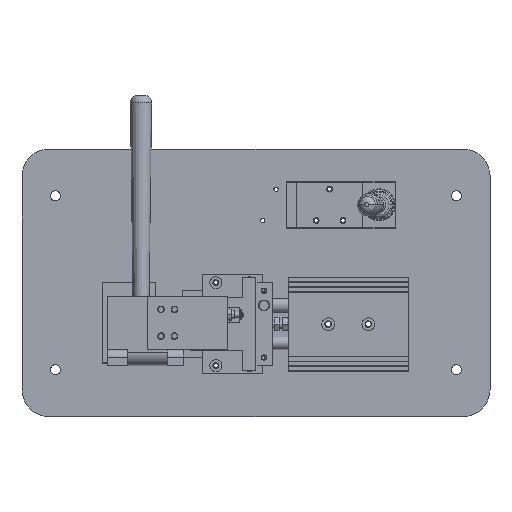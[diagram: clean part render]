
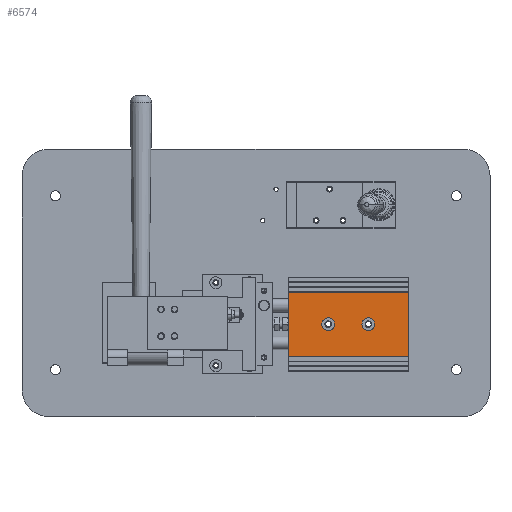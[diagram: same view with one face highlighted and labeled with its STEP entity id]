
A CAD part, top view. The second image highlights one B-rep face of the part: STEP entity #6574.
In plain terms, the highlighted planar face has unit normal (0, 0, 1) as drawn and (0, 1, 0) by its records, which use the part's own axes.
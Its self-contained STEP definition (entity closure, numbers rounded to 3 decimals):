
#5325=CARTESIAN_POINT('Vertex',(0.,25.,23.9)) ;
#5328=CARTESIAN_POINT('Line Origine',(0.,25.,0.)) ;
#5332=CARTESIAN_POINT('Vertex',(0.,25.,-23.9)) ;
#6468=CARTESIAN_POINT('Vertex',(90.,25.,23.9)) ;
#6471=CARTESIAN_POINT('Line Origine',(90.,25.,23.9)) ;
#6483=CARTESIAN_POINT('Axis2P3D Location',(90.,25.,-23.9)) ;
#6488=CARTESIAN_POINT('Line Origine',(90.,25.,0.)) ;
#6492=CARTESIAN_POINT('Vertex',(90.,25.,-23.9)) ;
#6495=CARTESIAN_POINT('Line Origine',(45.,25.,-23.9)) ;
#6506=CARTESIAN_POINT('Axis2P3D Location',(60.,25.,0.)) ;
#6510=CARTESIAN_POINT('Vertex',(64.75,25.,0.)) ;
#6512=CARTESIAN_POINT('Vertex',(60.,25.,4.75)) ;
#6515=CARTESIAN_POINT('Axis2P3D Location',(60.,25.,0.)) ;
#6519=CARTESIAN_POINT('Vertex',(55.25,25.,0.)) ;
#6522=CARTESIAN_POINT('Axis2P3D Location',(60.,25.,0.)) ;
#6526=CARTESIAN_POINT('Vertex',(60.,25.,-4.75)) ;
#6529=CARTESIAN_POINT('Axis2P3D Location',(60.,25.,0.)) ;
#6540=CARTESIAN_POINT('Axis2P3D Location',(30.,25.,0.)) ;
#6544=CARTESIAN_POINT('Vertex',(34.75,25.,0.)) ;
#6546=CARTESIAN_POINT('Vertex',(30.,25.,4.75)) ;
#6549=CARTESIAN_POINT('Axis2P3D Location',(30.,25.,0.)) ;
#6553=CARTESIAN_POINT('Vertex',(25.25,25.,0.)) ;
#6556=CARTESIAN_POINT('Axis2P3D Location',(30.,25.,0.)) ;
#6560=CARTESIAN_POINT('Vertex',(30.,25.,-4.75)) ;
#6563=CARTESIAN_POINT('Axis2P3D Location',(30.,25.,0.)) ;
#5329=DIRECTION('Vector Direction',(0.,0.,1.)) ;
#6472=DIRECTION('Vector Direction',(1.,0.,0.)) ;
#6484=DIRECTION('Axis2P3D Direction',(0.,-1.,0.)) ;
#6485=DIRECTION('Axis2P3D XDirection',(0.,0.,-1.)) ;
#6489=DIRECTION('Vector Direction',(0.,0.,1.)) ;
#6496=DIRECTION('Vector Direction',(-1.,0.,0.)) ;
#6507=DIRECTION('Axis2P3D Direction',(0.,-1.,0.)) ;
#6516=DIRECTION('Axis2P3D Direction',(0.,-1.,0.)) ;
#6523=DIRECTION('Axis2P3D Direction',(0.,-1.,0.)) ;
#6530=DIRECTION('Axis2P3D Direction',(0.,-1.,0.)) ;
#6541=DIRECTION('Axis2P3D Direction',(0.,-1.,0.)) ;
#6550=DIRECTION('Axis2P3D Direction',(0.,-1.,0.)) ;
#6557=DIRECTION('Axis2P3D Direction',(0.,-1.,0.)) ;
#6564=DIRECTION('Axis2P3D Direction',(0.,-1.,0.)) ;
#6486=AXIS2_PLACEMENT_3D('Plane Axis2P3D',#6483,#6484,#6485) ;
#6508=AXIS2_PLACEMENT_3D('Circle Axis2P3D',#6506,#6507,$) ;
#6517=AXIS2_PLACEMENT_3D('Circle Axis2P3D',#6515,#6516,$) ;
#6524=AXIS2_PLACEMENT_3D('Circle Axis2P3D',#6522,#6523,$) ;
#6531=AXIS2_PLACEMENT_3D('Circle Axis2P3D',#6529,#6530,$) ;
#6542=AXIS2_PLACEMENT_3D('Circle Axis2P3D',#6540,#6541,$) ;
#6551=AXIS2_PLACEMENT_3D('Circle Axis2P3D',#6549,#6550,$) ;
#6558=AXIS2_PLACEMENT_3D('Circle Axis2P3D',#6556,#6557,$) ;
#6565=AXIS2_PLACEMENT_3D('Circle Axis2P3D',#6563,#6564,$) ;
#6501=ORIENTED_EDGE('',*,*,#5334,.T.) ;
#6502=ORIENTED_EDGE('',*,*,#6475,.F.) ;
#6503=ORIENTED_EDGE('',*,*,#6494,.F.) ;
#6504=ORIENTED_EDGE('',*,*,#6499,.T.) ;
#6535=ORIENTED_EDGE('',*,*,#6514,.T.) ;
#6536=ORIENTED_EDGE('',*,*,#6521,.T.) ;
#6537=ORIENTED_EDGE('',*,*,#6528,.T.) ;
#6538=ORIENTED_EDGE('',*,*,#6533,.T.) ;
#6569=ORIENTED_EDGE('',*,*,#6548,.T.) ;
#6570=ORIENTED_EDGE('',*,*,#6555,.T.) ;
#6571=ORIENTED_EDGE('',*,*,#6562,.T.) ;
#6572=ORIENTED_EDGE('',*,*,#6567,.T.) ;
#6539=FACE_BOUND('',#6534,.T.) ;
#6573=FACE_BOUND('',#6568,.T.) ;
#5330=VECTOR('Line Direction',#5329,1.) ;
#6473=VECTOR('Line Direction',#6472,1.) ;
#6490=VECTOR('Line Direction',#6489,1.) ;
#6497=VECTOR('Line Direction',#6496,1.) ;
#6574=ADVANCED_FACE('_TR20-1520_b',(#6505,#6539,#6573),#6487,.F.) ;
#6509=CIRCLE('generated circle',#6508,4.75) ;
#6518=CIRCLE('generated circle',#6517,4.75) ;
#6525=CIRCLE('generated circle',#6524,4.75) ;
#6532=CIRCLE('generated circle',#6531,4.75) ;
#6543=CIRCLE('generated circle',#6542,4.75) ;
#6552=CIRCLE('generated circle',#6551,4.75) ;
#6559=CIRCLE('generated circle',#6558,4.75) ;
#6566=CIRCLE('generated circle',#6565,4.75) ;
#5334=EDGE_CURVE('',#5333,#5326,#5331,.T.) ;
#6475=EDGE_CURVE('',#6469,#5326,#6474,.F.) ;
#6494=EDGE_CURVE('',#6493,#6469,#6491,.T.) ;
#6499=EDGE_CURVE('',#6493,#5333,#6498,.T.) ;
#6514=EDGE_CURVE('',#6511,#6513,#6509,.T.) ;
#6521=EDGE_CURVE('',#6513,#6520,#6518,.T.) ;
#6528=EDGE_CURVE('',#6520,#6527,#6525,.T.) ;
#6533=EDGE_CURVE('',#6527,#6511,#6532,.T.) ;
#6548=EDGE_CURVE('',#6545,#6547,#6543,.T.) ;
#6555=EDGE_CURVE('',#6547,#6554,#6552,.T.) ;
#6562=EDGE_CURVE('',#6554,#6561,#6559,.T.) ;
#6567=EDGE_CURVE('',#6561,#6545,#6566,.T.) ;
#6500=EDGE_LOOP('',(#6501,#6502,#6503,#6504)) ;
#6534=EDGE_LOOP('',(#6535,#6536,#6537,#6538)) ;
#6568=EDGE_LOOP('',(#6569,#6570,#6571,#6572)) ;
#6505=FACE_OUTER_BOUND('',#6500,.T.) ;
#5331=LINE('Line',#5328,#5330) ;
#6474=LINE('Line',#6471,#6473) ;
#6491=LINE('Line',#6488,#6490) ;
#6498=LINE('Line',#6495,#6497) ;
#6487=PLANE('Plane',#6486) ;
#5326=VERTEX_POINT('',#5325) ;
#5333=VERTEX_POINT('',#5332) ;
#6469=VERTEX_POINT('',#6468) ;
#6493=VERTEX_POINT('',#6492) ;
#6511=VERTEX_POINT('',#6510) ;
#6513=VERTEX_POINT('',#6512) ;
#6520=VERTEX_POINT('',#6519) ;
#6527=VERTEX_POINT('',#6526) ;
#6545=VERTEX_POINT('',#6544) ;
#6547=VERTEX_POINT('',#6546) ;
#6554=VERTEX_POINT('',#6553) ;
#6561=VERTEX_POINT('',#6560) ;
